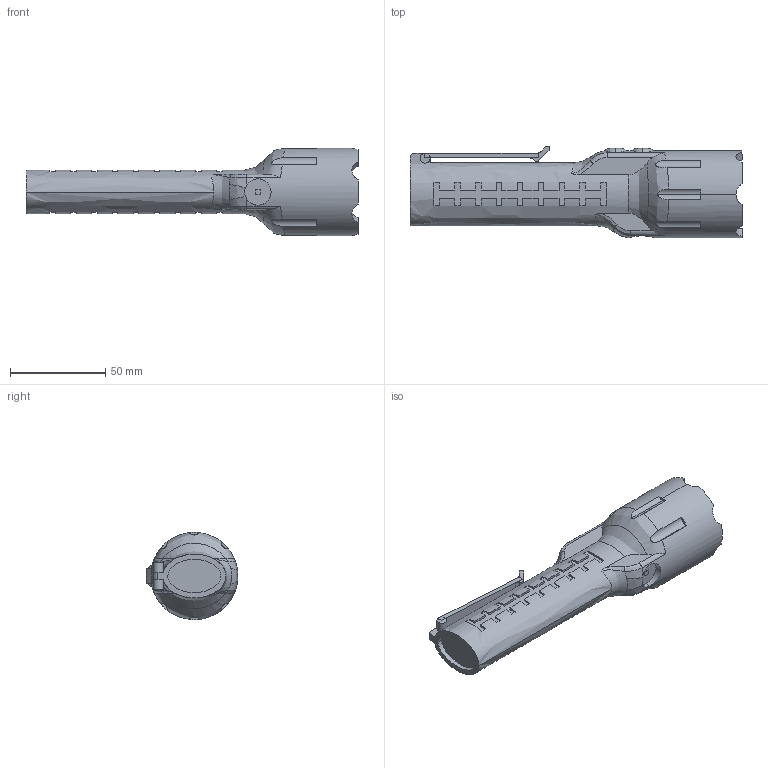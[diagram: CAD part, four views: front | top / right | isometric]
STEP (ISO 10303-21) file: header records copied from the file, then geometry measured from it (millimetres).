
FILE_DESCRIPTION (( 'STEP AP214' ), '1' );
FILE_NAME ('EXP-LED-FX2.STEP', '2016-01-15T19:45:51', ( '' ), ( '' ), 'SwSTEP 2.0', 'SolidWorks 2016', '' );
FILE_SCHEMA (( 'AUTOMOTIVE_DESIGN' ));
Length unit declared in the file: inch
Products named in the file (2): Night Stick Pro; EXP-LED-FX2
Assembly tree (1 placements, depth 2):
  EXP-LED-FX2
    Night Stick Pro
Bounding box: 173.99 x 48.15 x 45.72 mm (x, y, z)
Volume: 127160.6 mm3; surface area: 27744 mm2
Topology: 1 solids, 1 shells, 260 faces, 743 edges, 492 vertices
Faces by surface type: plane 186, cylinder 44, bspline 24, torus 6
Entity records: 11025 total; most frequent: CARTESIAN_POINT 4446, ORIENTED_EDGE 1486, DIRECTION 1121, EDGE_CURVE 743, VERTEX_POINT 492, VECTOR 471, LINE 471, AXIS2_PLACEMENT_3D 325
